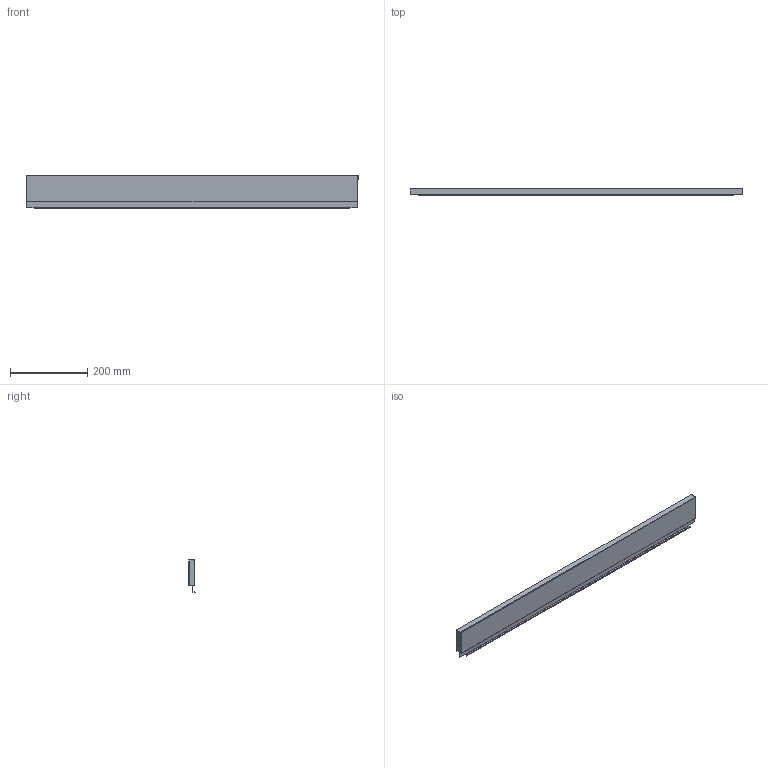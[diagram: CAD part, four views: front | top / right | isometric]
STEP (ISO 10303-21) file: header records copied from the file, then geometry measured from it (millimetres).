
FILE_DESCRIPTION (( 'STEP AP214' ), '1' );
FILE_NAME ('_STRW_H90_KAB_950.step', '2010-08-24T14:40:19', ( 'grass' ), ( '' ), 'SwSTEP 2.0', 'SolidWorks 2009', '' );
FILE_SCHEMA (( 'AUTOMOTIVE_DESIGN' ));
Length unit declared in the file: millimetre
Products named in the file (1): _STRW_H90_KAB_950
Bounding box: 860 x 17 x 85.14 mm (x, y, z)
Volume: 78831 mm3; surface area: 198711.4 mm2
Topology: 1 solids, 1 shells, 76 faces, 214 edges, 140 vertices
Faces by surface type: plane 54, cylinder 22
Entity records: 2472 total; most frequent: CARTESIAN_POINT 431, ORIENTED_EDGE 428, DIRECTION 412, EDGE_CURVE 214, LINE 170, VECTOR 170, VERTEX_POINT 140, AXIS2_PLACEMENT_3D 121
